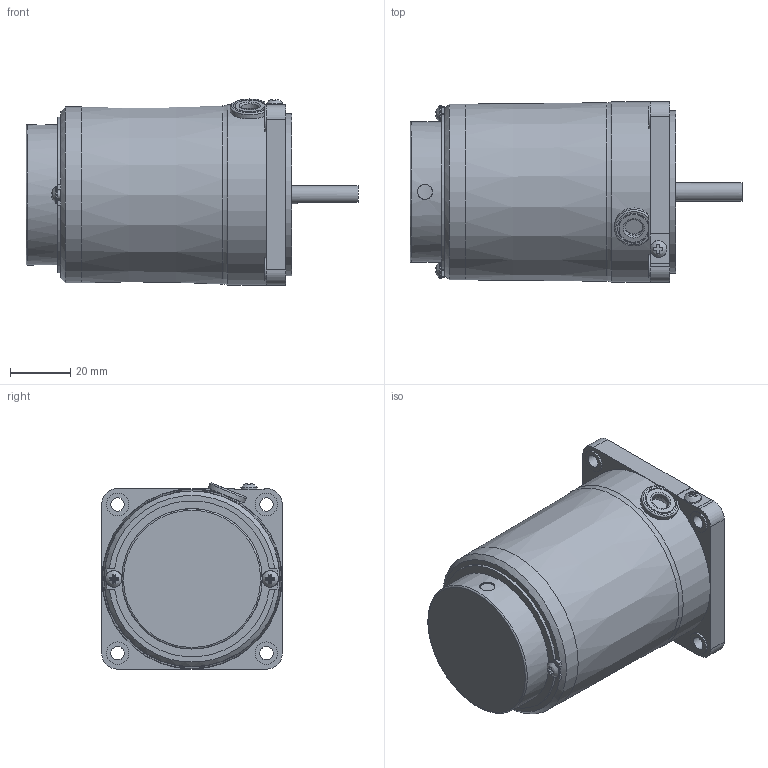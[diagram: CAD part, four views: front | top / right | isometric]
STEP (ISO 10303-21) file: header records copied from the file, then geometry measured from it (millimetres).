
FILE_DESCRIPTION(/* description */ (''),/* implementation_level */ '2;1');
FILE_NAME(/* name */ 'E:\도면작업\2016\0704) 미주향 SG 도면\3D MOTOR\SPEED CONTROL TYPE\SG6I(R)06D_-S12(24).stp',/* time_stamp */ '2017-08-21T10:53:07+09:00',/* author */ ('jy-jung'),/* organization */ (''),/* preprocessor_version */ 'ST-DEVELOPER v15.6',/* originating_system */ 'Autodesk Inventor 2015',/* authorisation */ '');
FILE_SCHEMA (('AUTOMOTIVE_DESIGN { 1 0 10303 214 3 1 1 }'));
Length unit declared in the file: millimetre
Products named in the file (1): 부품27
Bounding box: 110.5 x 60 x 61.91 mm (x, y, z)
Volume: 230205.8 mm3; surface area: 25528.9 mm2
Topology: 1 solids, 2 shells, 174 faces, 468 edges, 303 vertices
Faces by surface type: plane 109, cylinder 51, torus 8, bspline 3, cone 3
Full cylindrical faces by diameter (mm): 3 x2, 4.5 x4, 5 x1, 5.6 x1, 6 x2, 7.5 x4, 10.1 x1, 25 x1, 46.7 x1, 54 x1, 58.5 x1, 60 x1
Entity records: 5870 total; most frequent: CARTESIAN_POINT 1465, ORIENTED_EDGE 858, DIRECTION 846, EDGE_CURVE 429, AXIS2_PLACEMENT_3D 305, VERTEX_POINT 293, LINE 236, VECTOR 236
